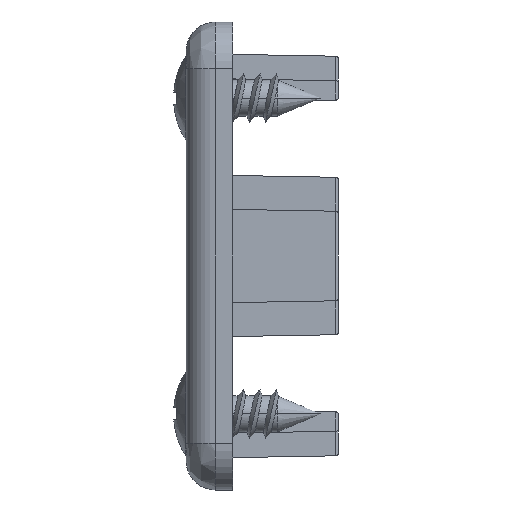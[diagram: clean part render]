
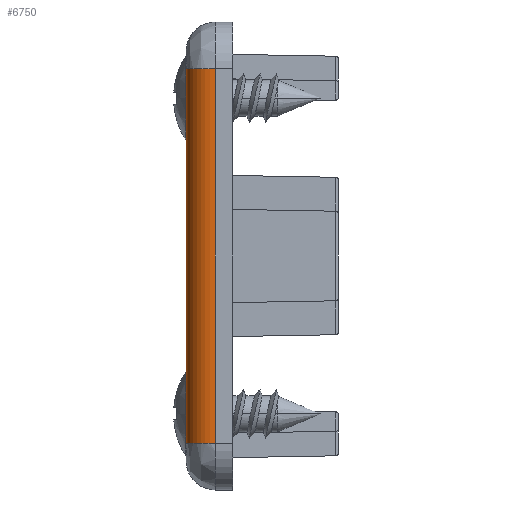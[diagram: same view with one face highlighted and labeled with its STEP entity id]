
A CAD part, left-side view. The second image highlights one B-rep face of the part: STEP entity #6750.
In plain terms, the highlighted cylindrical face has radius 2.5 mm (diameter 5 mm), a partial arc.
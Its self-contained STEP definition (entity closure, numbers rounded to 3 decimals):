
#72 = ORIENTED_EDGE ( 'NONE', *, *, #16554, .T. ) ;
#418 = AXIS2_PLACEMENT_3D ( 'NONE', #2407, #8481, #9964 ) ;
#451 = LINE ( 'NONE', #14866, #8589 ) ;
#514 = CARTESIAN_POINT ( 'NONE',  ( 2.5, 4., 5.6 ) ) ;
#739 = VECTOR ( 'NONE', #4354, 1000. ) ;
#1252 = ORIENTED_EDGE ( 'NONE', *, *, #19024, .T. ) ;
#1634 = CARTESIAN_POINT ( 'NONE',  ( 2.5, 4., 4. ) ) ;
#2221 = CARTESIAN_POINT ( 'NONE',  ( 2.5, 1.5, 4. ) ) ;
#2375 = VERTEX_POINT ( 'NONE', #7326 ) ;
#2407 = CARTESIAN_POINT ( 'NONE',  ( 2.5, 1.5, 36. ) ) ;
#2488 = CARTESIAN_POINT ( 'NONE',  ( 2.5, 4., 34.4 ) ) ;
#2559 = VERTEX_POINT ( 'NONE', #8760 ) ;
#2769 = AXIS2_PLACEMENT_3D ( 'NONE', #2221, #12645, #3840 ) ;
#2848 = EDGE_CURVE ( 'NONE', #8531, #3426, #9570, .T. ) ;
#2933 = CARTESIAN_POINT ( 'NONE',  ( 0., 1.5, 36. ) ) ;
#3012 = CARTESIAN_POINT ( 'NONE',  ( 2.4, 3.998, 33.5 ) ) ;
#3097 = CARTESIAN_POINT ( 'NONE',  ( 0., 1.5, 4. ) ) ;
#3214 = VERTEX_POINT ( 'NONE', #2933 ) ;
#3426 = VERTEX_POINT ( 'NONE', #12151 ) ;
#3840 = DIRECTION ( 'NONE',  ( -1., 0., 0. ) ) ;
#4242 = EDGE_CURVE ( 'NONE', #2559, #2375, #4993, .T. ) ;
#4308 = ORIENTED_EDGE ( 'NONE', *, *, #18917, .T. ) ;
#4354 = DIRECTION ( 'NONE',  ( 0., 0., -1. ) ) ;
#4477 = AXIS2_PLACEMENT_3D ( 'NONE', #17319, #9923, #10961 ) ;
#4723 = CARTESIAN_POINT ( 'NONE',  ( 2.5, 4., 36. ) ) ;
#4747 = ORIENTED_EDGE ( 'NONE', *, *, #12148, .T. ) ;
#4961 = ORIENTED_EDGE ( 'NONE', *, *, #2848, .T. ) ;
#4993 = B_SPLINE_CURVE_WITH_KNOTS ( 'NONE', 3,
 ( #5967, #5205, #12834, #13793 ),
 .UNSPECIFIED., .F., .F.,
 ( 4, 4 ),
 ( -0.001, 0. ),
 .UNSPECIFIED. ) ;
#5045 = EDGE_LOOP ( 'NONE', ( #14385, #4308, #11173, #4747, #1252, #14984, #4961, #8131, #72, #13915 ) ) ;
#5188 = EDGE_CURVE ( 'NONE', #5408, #8955, #11882, .T. ) ;
#5205 = CARTESIAN_POINT ( 'NONE',  ( 2.433, 4., 7.104 ) ) ;
#5303 = CIRCLE ( 'NONE', #418, 2.5 ) ;
#5408 = VERTEX_POINT ( 'NONE', #1634 ) ;
#5561 = CARTESIAN_POINT ( 'NONE',  ( 2.4, 3.998, 33.804 ) ) ;
#5601 = CARTESIAN_POINT ( 'NONE',  ( 2.5, 4., 32.6 ) ) ;
#5814 = LINE ( 'NONE', #17313, #9739 ) ;
#5967 = CARTESIAN_POINT ( 'NONE',  ( 2.5, 4., 7.4 ) ) ;
#5982 = VERTEX_POINT ( 'NONE', #3097 ) ;
#6651 = CARTESIAN_POINT ( 'NONE',  ( 2.4, 3.998, 6.196 ) ) ;
#6710 = CARTESIAN_POINT ( 'NONE',  ( 2.5, 4., 40. ) ) ;
#6750 = ADVANCED_FACE ( 'NONE', ( #13000 ), #15978, .T. ) ;
#6918 = EDGE_CURVE ( 'NONE', #3214, #8531, #5303, .T. ) ;
#6936 = CARTESIAN_POINT ( 'NONE',  ( 2.4, 3.998, 33.5 ) ) ;
#7326 = CARTESIAN_POINT ( 'NONE',  ( 2.4, 3.998, 6.5 ) ) ;
#7405 = CARTESIAN_POINT ( 'NONE',  ( 2.5, 4., 0. ) ) ;
#7908 = B_SPLINE_CURVE_WITH_KNOTS ( 'NONE', 3,
 ( #6936, #8512, #14421, #5601 ),
 .UNSPECIFIED., .F., .F.,
 ( 4, 4 ),
 ( 0.001, 0.002 ),
 .UNSPECIFIED. ) ;
#8131 = ORIENTED_EDGE ( 'NONE', *, *, #8808, .T. ) ;
#8277 = DIRECTION ( 'NONE',  ( 0., 0., 1. ) ) ;
#8481 = DIRECTION ( 'NONE',  ( 0., 0., -1. ) ) ;
#8512 = CARTESIAN_POINT ( 'NONE',  ( 2.4, 3.998, 33.196 ) ) ;
#8531 = VERTEX_POINT ( 'NONE', #4723 ) ;
#8589 = VECTOR ( 'NONE', #18018, 1000. ) ;
#8760 = CARTESIAN_POINT ( 'NONE',  ( 2.5, 4., 7.4 ) ) ;
#8808 = EDGE_CURVE ( 'NONE', #3426, #14247, #17922, .T. ) ;
#8955 = VERTEX_POINT ( 'NONE', #18004 ) ;
#9570 = LINE ( 'NONE', #6710, #739 ) ;
#9636 = CARTESIAN_POINT ( 'NONE',  ( 2.433, 4., 5.896 ) ) ;
#9739 = VECTOR ( 'NONE', #8277, 1000. ) ;
#9923 = DIRECTION ( 'NONE',  ( 0., 0., 1. ) ) ;
#9964 = DIRECTION ( 'NONE',  ( -1., 0., 0. ) ) ;
#10441 = VERTEX_POINT ( 'NONE', #14980 ) ;
#10961 = DIRECTION ( 'NONE',  ( -1., 0., 0. ) ) ;
#11173 = ORIENTED_EDGE ( 'NONE', *, *, #5188, .F. ) ;
#11448 = CARTESIAN_POINT ( 'NONE',  ( 2.433, 4., 34.104 ) ) ;
#11607 = VECTOR ( 'NONE', #12560, 1000. ) ;
#11882 = LINE ( 'NONE', #7405, #11607 ) ;
#12148 = EDGE_CURVE ( 'NONE', #5408, #5982, #12558, .T. ) ;
#12151 = CARTESIAN_POINT ( 'NONE',  ( 2.5, 4., 34.4 ) ) ;
#12558 = CIRCLE ( 'NONE', #2769, 2.5 ) ;
#12560 = DIRECTION ( 'NONE',  ( 0., 0., 1. ) ) ;
#12645 = DIRECTION ( 'NONE',  ( 0., 0., 1. ) ) ;
#12767 = B_SPLINE_CURVE_WITH_KNOTS ( 'NONE', 3,
 ( #13854, #6651, #9636, #514 ),
 .UNSPECIFIED., .F., .F.,
 ( 4, 4 ),
 ( 0., 0.001 ),
 .UNSPECIFIED. ) ;
#12834 = CARTESIAN_POINT ( 'NONE',  ( 2.4, 3.998, 6.804 ) ) ;
#13000 = FACE_OUTER_BOUND ( 'NONE', #5045, .T. ) ;
#13793 = CARTESIAN_POINT ( 'NONE',  ( 2.4, 3.998, 6.5 ) ) ;
#13854 = CARTESIAN_POINT ( 'NONE',  ( 2.4, 3.998, 6.5 ) ) ;
#13915 = ORIENTED_EDGE ( 'NONE', *, *, #15559, .F. ) ;
#14247 = VERTEX_POINT ( 'NONE', #3012 ) ;
#14385 = ORIENTED_EDGE ( 'NONE', *, *, #4242, .T. ) ;
#14421 = CARTESIAN_POINT ( 'NONE',  ( 2.433, 4., 32.896 ) ) ;
#14866 = CARTESIAN_POINT ( 'NONE',  ( 2.5, 4., 0. ) ) ;
#14980 = CARTESIAN_POINT ( 'NONE',  ( 2.5, 4., 32.6 ) ) ;
#14984 = ORIENTED_EDGE ( 'NONE', *, *, #6918, .T. ) ;
#15559 = EDGE_CURVE ( 'NONE', #2559, #10441, #451, .T. ) ;
#15930 = CARTESIAN_POINT ( 'NONE',  ( 2.4, 3.998, 33.5 ) ) ;
#15978 = CYLINDRICAL_SURFACE ( 'NONE', #4477, 2.5 ) ;
#16554 = EDGE_CURVE ( 'NONE', #14247, #10441, #7908, .T. ) ;
#17313 = CARTESIAN_POINT ( 'NONE',  ( 0., 1.5, 40. ) ) ;
#17319 = CARTESIAN_POINT ( 'NONE',  ( 2.5, 1.5, 40. ) ) ;
#17922 = B_SPLINE_CURVE_WITH_KNOTS ( 'NONE', 3,
 ( #2488, #11448, #5561, #15930 ),
 .UNSPECIFIED., .F., .F.,
 ( 4, 4 ),
 ( 0., 0.001 ),
 .UNSPECIFIED. ) ;
#18004 = CARTESIAN_POINT ( 'NONE',  ( 2.5, 4., 5.6 ) ) ;
#18018 = DIRECTION ( 'NONE',  ( 0., 0., 1. ) ) ;
#18917 = EDGE_CURVE ( 'NONE', #2375, #8955, #12767, .T. ) ;
#19024 = EDGE_CURVE ( 'NONE', #5982, #3214, #5814, .T. ) ;
